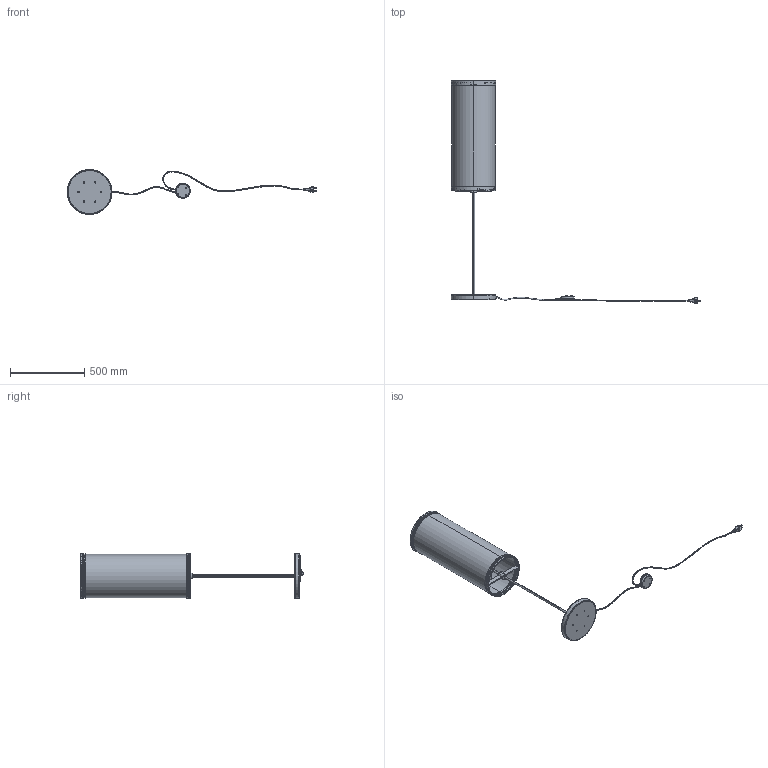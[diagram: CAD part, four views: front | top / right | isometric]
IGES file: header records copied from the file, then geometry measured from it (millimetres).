
Start section: SolidWorks IGES file using analytic representation for surfaces
Global section: file name: H:\Drive condivisi\Ufficio Tecnico\Graphics\Files 3D for Sito Web\Isol\X15-F002 Isol Floor_27.IGS; native system: SolidWorks 2023; preprocessor: SolidWorks 2023; author: Tecnico; date: 230627.141958; units: millimetre
Bounding box: 1684.54 x 1504.11 x 302 mm (x, y, z)
Surface area: 2505278.5 mm2 (no closed solid volume)
Topology: 0 solids, 0 shells, 1526 faces, 20288 edges, 20212 vertices
Faces by surface type: revolution 771, bspline 755
